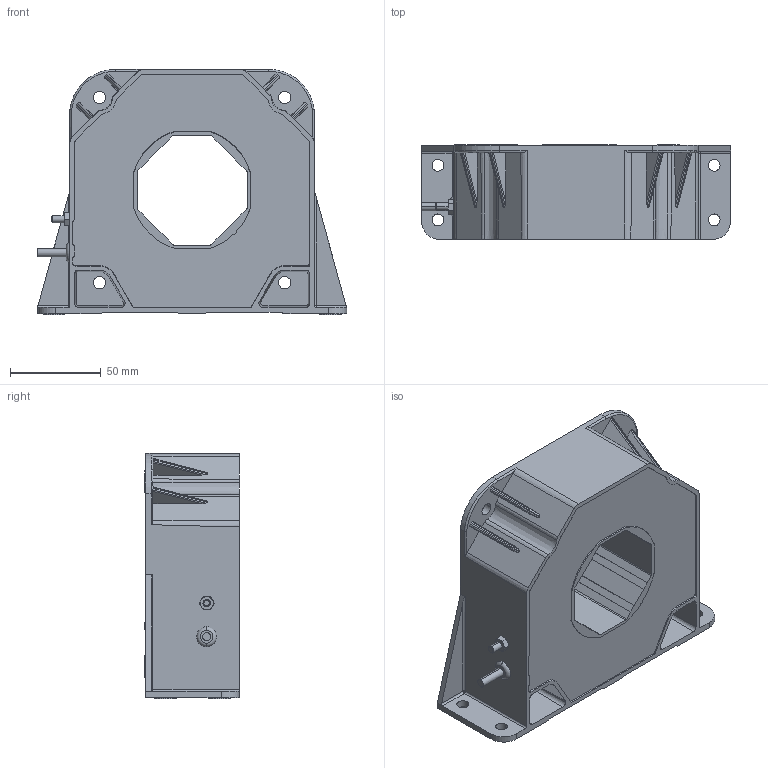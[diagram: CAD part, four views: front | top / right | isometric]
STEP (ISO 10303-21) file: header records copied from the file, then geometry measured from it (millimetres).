
FILE_DESCRIPTION(('CoCreate Modeling STEP Export'),'2;1');
FILE_NAME('LF 2005-S_SP8_blackbox.stp','2009-02-23T 9:51:32',(''),(''),'CoCreate Modeling STEP processor for AP214 (Solid Model)','CoCreate Modeling 16.00A 16-Aug-2008 (C) Parametric Technology GmbH','');
FILE_SCHEMA(('AUTOMOTIVE_DESIGN { 1 0 10303 214 1 1 1 1 }'));
Length unit declared in the file: millimetre
Products named in the file (8): cable_dia4.5; borne_ecran; passe_fil; ecrou.M4; SP8_CABLE_4.5; Boîtier_BLACKBOX; axson; LF2005-S_SP8_blackbox
Assembly tree (7 placements, depth 3):
  LF2005-S_SP8_blackbox
    axson
    Boîtier_BLACKBOX
    SP8_CABLE_4.5
      ecrou.M4
      passe_fil
      borne_ecran
      cable_dia4.5
Bounding box: 170.07 x 52 x 134.88 mm (x, y, z)
Volume: 678203.2 mm3; surface area: 109605.6 mm2
Topology: 6 solids, 6 shells, 1235 faces, 3420 edges, 2263 vertices
Faces by surface type: plane 1050, cylinder 102, cone 48, bspline 17, torus 14, extrusion 2, sphere 2
Entity records: 44237 total; most frequent: CARTESIAN_POINT 12760, ORIENTED_EDGE 6836, DIRECTION 5720, EDGE_CURVE 3418, VECTOR 2962, LINE 2960, VERTEX_POINT 2263, AXIS2_PLACEMENT_3D 1379
